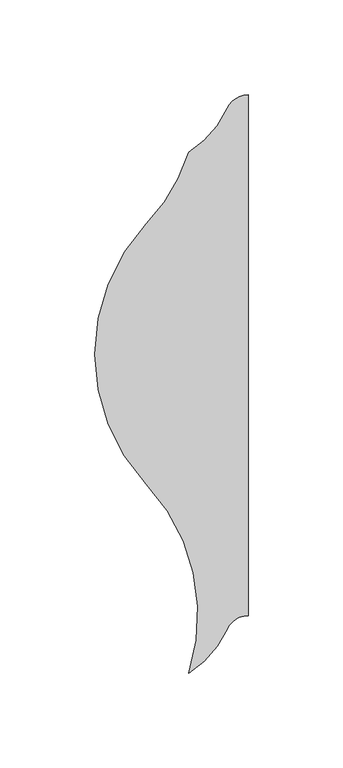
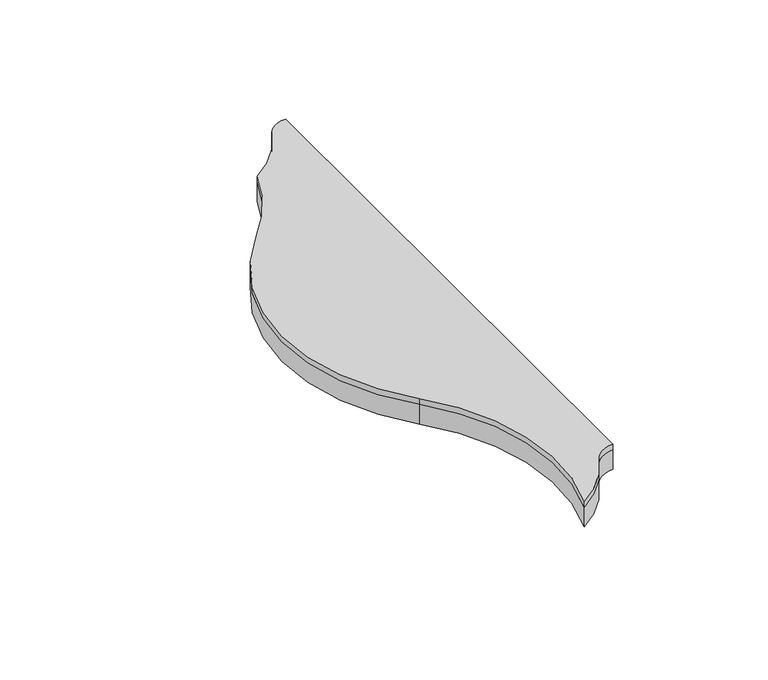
"""IFC4 building model written with IfcOpenShell, lengths in millimetres: proxy geometry, FilzFelt_Fish_Block : Fish Block."""

from ifc_helpers import new_model, si_unit, point, frame, frame_2d, origin, origin_with_axes, place, context, project, spatial, polyline, circle_curve, trimmed, segment, composite_curve, outline, extrude, source, transform, mapped, element, save


def specialty_equipment_363d60c9(model_context):
    return source(origin(), model_context, "Body", "SweptSolid", [
        extrude(outline(composite_curve([segment(trimmed(circle_curve(frame_2d((-57.9263497, -124.2921115)), 51.2968574), [point((-11.0103348, -145.0347036))], [point((-31.2619065, -168.1141956))], False, "CARTESIAN"), True, "CONTINUOUS"), segment(trimmed(circle_curve(frame_2d((-126.6124317, -137.2240266)), 100.2293629), [point((-31.2619065, -168.1141956))], [point((-53.5486457, -68.6120133))], True, "CARTESIAN"), True, "CONTINUOUS"), segment(trimmed(circle_curve(frame_2d((19.5151403, 0.0)), 100.2293629), [point((-53.5486457, -68.6120133))], [point((-53.5486457, 68.6120133))], False, "CARTESIAN"), True, "CONTINUOUS"), segment(trimmed(circle_curve(frame_2d((-126.6124317, 137.2240266)), 100.2293629), [point((-53.5486457, 68.6120133))], [point((-31.2619065, 106.3338576))], True, "CARTESIAN"), True, "CONTINUOUS"), segment(trimmed(circle_curve(frame_2d((-57.9263497, 150.1559416)), 51.2968574), [point((-31.2619065, 106.3338576))], [point((-11.0103348, 129.4133496))], True, "CARTESIAN"), True, "CONTINUOUS"), segment(trimmed(circle_curve(frame_2d((0.0, 124.5454408)), 12.0384388), [point((-11.0103348, 129.4133496))], [point((0.0, 136.5838795))], False, "CARTESIAN"), True, "CONTINUOUS"), segment(polyline([(0.0, 136.5838795), (0.0, -137.8641736)]), True, "CONTINUOUS"), segment(trimmed(circle_curve(frame_2d((0.0, -149.9026124)), 12.0384388), [point((0.0, -137.8641736))], [point((-11.0103348, -145.0347036))], True, "CARTESIAN"), True, "CONTINUOUS")], self_intersect=False)), frame((0.0, 0.0, 10.0210937), z_axis=(0.0, 0.0, 1.0), x_axis=(1.0, 0.0, 0.0)), (0.0, 0.0, 1.0), 2.9765625),
        extrude(outline(composite_curve([segment(trimmed(circle_curve(frame_2d((-57.9263497, -124.2921115)), 51.2968574), [point((-11.0103348, -145.0347036))], [point((-31.2619065, -168.1141956))], False, "CARTESIAN"), True, "CONTINUOUS"), segment(trimmed(circle_curve(frame_2d((-126.6124317, -137.2240266)), 100.2293629), [point((-31.2619065, -168.1141956))], [point((-53.5486457, -68.6120133))], True, "CARTESIAN"), True, "CONTINUOUS"), segment(trimmed(circle_curve(frame_2d((19.5151403, 0.0)), 100.2293629), [point((-53.5486457, -68.6120133))], [point((-53.5486457, 68.6120133))], False, "CARTESIAN"), True, "CONTINUOUS"), segment(trimmed(circle_curve(frame_2d((-126.6124317, 137.2240266)), 100.2293629), [point((-53.5486457, 68.6120133))], [point((-31.2619065, 106.3338576))], True, "CARTESIAN"), True, "CONTINUOUS"), segment(trimmed(circle_curve(frame_2d((-57.9263497, 150.1559416)), 51.2968574), [point((-31.2619065, 106.3338576))], [point((-11.0103348, 129.4133496))], True, "CARTESIAN"), True, "CONTINUOUS"), segment(trimmed(circle_curve(frame_2d((0.0, 124.5454408)), 12.0384388), [point((-11.0103348, 129.4133496))], [point((0.0, 136.5838795))], False, "CARTESIAN"), True, "CONTINUOUS"), segment(polyline([(0.0, 136.5838795), (0.0, -137.8641736)]), True, "CONTINUOUS"), segment(trimmed(circle_curve(frame_2d((0.0, -149.9026124)), 12.0384388), [point((0.0, -137.8641736))], [point((-11.0103348, -145.0347036))], True, "CARTESIAN"), True, "CONTINUOUS")], self_intersect=False)), origin_with_axes(), (0.0, 0.0, 1.0), 10.0210938),
    ])


if __name__ == "__main__":
    model = new_model("IFC4")
    model_context = context("Model", 3, world=origin())
    ifc_project = project(units=[si_unit("LENGTHUNIT", "METRE", prefix="MILLI")], contexts=[model_context])
    site = spatial("IfcSite", under=ifc_project)
    building = spatial("IfcBuilding", under=site)
    placement = place(None, origin())
    specialty_equipment_shape = specialty_equipment_363d60c9(model_context)
    element("IfcBuildingElementProxy", 1, Name="FilzFelt_Fish_Block : Fish Block", ObjectType="FilzFelt_Fish_Block : Fish Block", at=placement, inside=building, context=model_context, shape_type="MappedRepresentation", body=[
        mapped(specialty_equipment_shape, transform((0.0, 0.0, 0.0), x_axis=(1.0, 0.0, 0.0), y_axis=(0.0, 1.0, 0.0), z_axis=(0.0, 0.0, 1.0))),
    ])
    save(model, "model.ifc")
